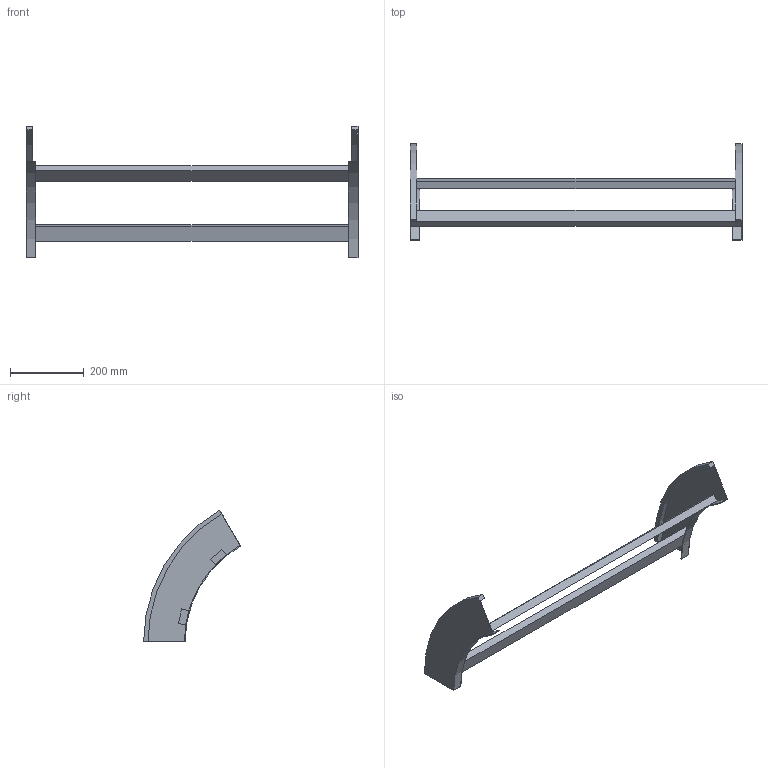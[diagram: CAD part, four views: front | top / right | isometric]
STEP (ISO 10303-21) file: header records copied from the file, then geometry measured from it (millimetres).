
FILE_DESCRIPTION (( 'STEP AP214' ), '1' );
FILE_NAME ('B2_41B3J900.step', '2025-02-21T14:59:12', ( '' ), ( '' ), 'SwSTEP 2.0', 'SolidWorks 2023', '' );
FILE_SCHEMA (( 'AUTOMOTIVE_DESIGN' ));
Length unit declared in the file: millimetre
Products named in the file (3): B2_LONGH.DISCESA_60°_H112.5_R300; B2_41B3J900; TRAVERSINO_900
Assembly tree (4 placements, depth 2):
  B2_41B3J900
    B2_LONGH.DISCESA_60°_H112.5_R300  x2
    TRAVERSINO_900  x2
Bounding box: 900 x 262.5 x 357.24 mm (x, y, z)
Volume: 1814382.9 mm3; surface area: 451567.9 mm2
Topology: 4 solids, 4 shells, 32 faces, 72 edges, 48 vertices
Faces by surface type: plane 24, cylinder 8
Entity records: 552 total; most frequent: DIRECTION 90, CARTESIAN_POINT 83, ORIENTED_EDGE 72, EDGE_CURVE 36, AXIS2_PLACEMENT_3D 31, LINE 28, VECTOR 28, VERTEX_POINT 24
